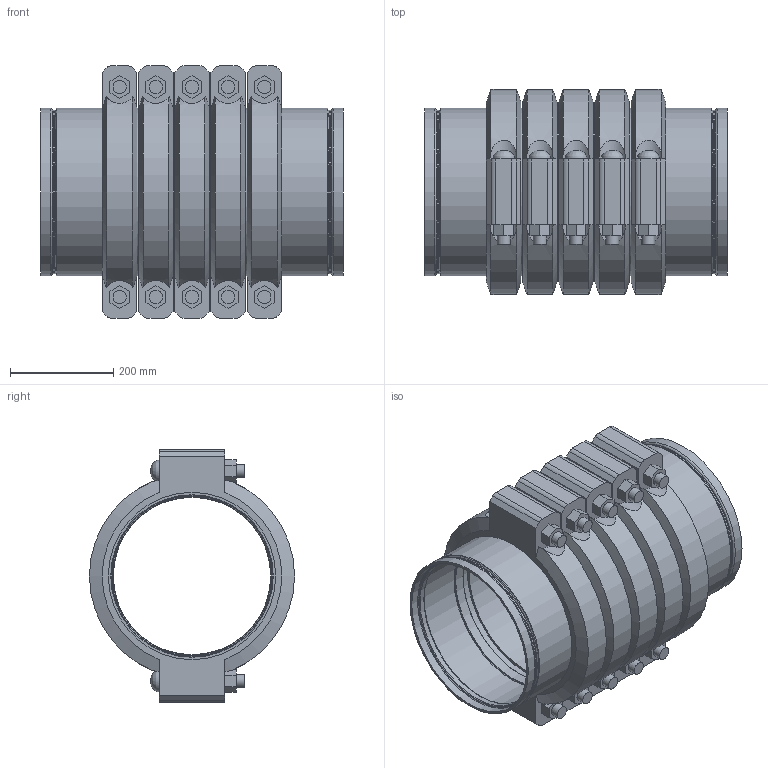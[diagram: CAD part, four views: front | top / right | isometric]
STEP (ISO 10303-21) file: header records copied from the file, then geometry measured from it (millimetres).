
FILE_DESCRIPTION(/* description */ ('VIC STRENGTHIN 100 EXPANSION JOINT 5 COUPLINGS COMPRESSED STYLE E155 (ST1)','CAx-IF Rec.Pracs.---Representation and Presentation of Product Manufacturing Information (PMI)---4.0---2014-10-13'),/* implementation_level */ '2;1');
FILE_NAME(/* name */ 'C:\Users\Vjadhav\AppData\Roaming\Autodesk\ApplicationPlugins\Victaulic.Temp\A149\Victaulic_SS-StrengThin 100_Expansion Joint_Compressed_5 Couplings_Style E155 (ST1)_12 (300).stp',/* time_stamp */ '2021-07-23T12:32:59+05:00',/* author */ ('kkamble'),/* organization */ ('Victaulic'),/* preprocessor_version */ 'ST-DEVELOPER v17.2',/* originating_system */ 'Autodesk Inventor 2019',/* authorisation */ '');
FILE_SCHEMA (('AP242_MANAGED_MODEL_BASED_3D_ENGINEERING_MIM_LF { 1 0 10303 442 1 1 4 }'));
Length unit declared in the file: inch
Products named in the file (4): E155-12.0; E494G-12.0; Nipple-12.0; 077-12.0
Assembly tree (11 placements, depth 2):
  E155-12.0
    E494G-12.0  x2
    Nipple-12.0  x4
    077-12.0  x5
Bounding box: 584.96 x 397 x 488.95 mm (x, y, z)
Volume: 20907406.5 mm3; surface area: 2887015.7 mm2
Topology: 11 solids, 21 shells, 403 faces, 1045 edges, 740 vertices
Faces by surface type: plane 208, cylinder 129, torus 32, cone 24, bspline 10
Full cylindrical faces by diameter (mm): 25.4 x20, 27.432 x10, 304.8 x4, 306.426 x2, 308.737 x2, 314.3 x6, 315.976 x2, 318.287 x10, 323.85 x23
Entity records: 3954 total; most frequent: CARTESIAN_POINT 816, DIRECTION 669, ORIENTED_EDGE 568, AXIS2_PLACEMENT_3D 288, EDGE_CURVE 284, VERTEX_POINT 205, CIRCLE 171, EDGE_LOOP 129
